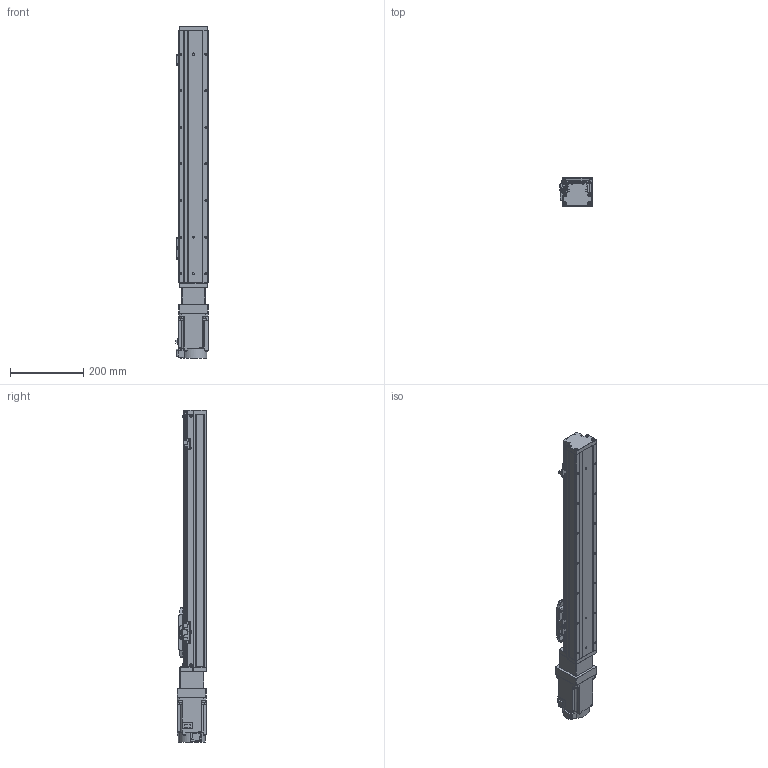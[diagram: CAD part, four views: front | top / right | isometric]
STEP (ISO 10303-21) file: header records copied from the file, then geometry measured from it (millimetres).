
FILE_DESCRIPTION (( 'STEP AP203' ), '1' );
FILE_NAME ('GTH8-500-BC-M75-C4.step', '2023-02-14T02:19:52', ( '微软用户' ), ( '微软中国' ), 'SwSTEP 2.0', 'SolidWorks 2020', '' );
FILE_SCHEMA (( 'CONFIG_CONTROL_DESIGN' ));
Length unit declared in the file: millimetre
Products named in the file (19): GTH80-006; GTH50-024; hg-kn73j_-s100; GTH80-013; GTH50-023; GTH8-500-BC-M75-C4; GBT 70.3-M3℅6; GBT96.1-2002 3×0.8; CTHA86-027; GTH80-022; BTH-M3X5X6; GTH80-001_500; GBT 70.1-M3℅6; CTHA86-006-1_CTHA86-006-4; GTH80-003; GBT 70.1-M4×16; CTHA86-013; GTH80-004; GTH80-028
Assembly tree (60 placements, depth 2):
  GTH8-500-BC-M75-C4
    GTH80-001_500
    GTH80-003
    GTH80-004
    GTH80-006
    GTH80-013
    GBT 70.3-M3℅6  x6
    GTH80-022
    GBT 70.1-M3℅6  x14
    GBT 70.1-M4×16  x8
    GTH80-028  x2
    GTH50-024  x3
    GTH50-023  x3
    GBT96.1-2002 3×0.8  x6
    BTH-M3X5X6  x8
    CTHA86-006-1_CTHA86-006-4
    CTHA86-013
    CTHA86-027
    hg-kn73j_-s100
Bounding box: 89.8 x 81.72 x 907.2 mm (x, y, z)
Volume: 4214970.9 mm3; surface area: 443086.2 mm2
Topology: 62 solids, 62 shells, 2253 faces, 5186 edges, 3160 vertices
Faces by surface type: plane 1185, cylinder 611, cone 285, torus 162, sphere 8, bspline 2
Entity records: 39489 total; most frequent: CARTESIAN_POINT 6506, DIRECTION 6503, ORIENTED_EDGE 5962, EDGE_CURVE 2981, AXIS2_PLACEMENT_3D 2275, VECTOR 1953, LINE 1953, VERTEX_POINT 1873
